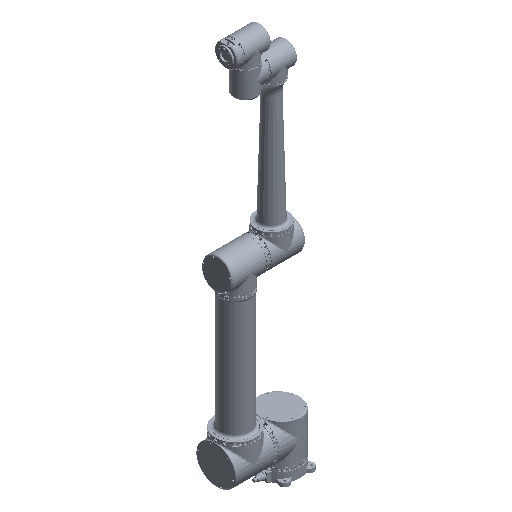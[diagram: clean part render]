
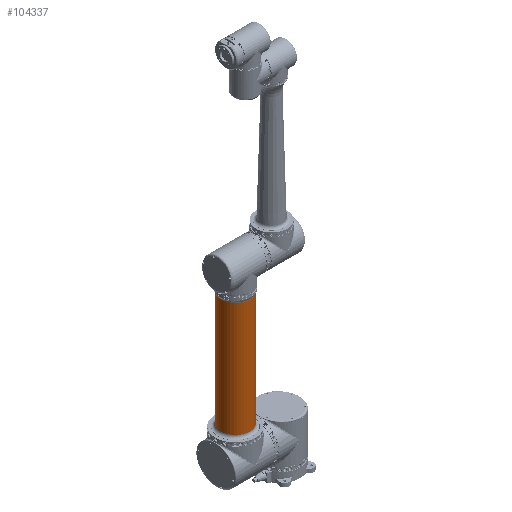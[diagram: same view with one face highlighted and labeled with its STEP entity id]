
A CAD part, isometric view. The second image highlights one B-rep face of the part: STEP entity #104337.
In plain terms, the highlighted cylindrical face has radius 54 mm (diameter 108 mm), a full revolution.
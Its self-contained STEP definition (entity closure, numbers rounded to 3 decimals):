
#6107 = EDGE_CURVE ( 'NONE', #418854, #418854, #614386, .T. ) ;
#8489 = DIRECTION ( 'NONE',  ( 0., 1., 0. ) ) ;
#35684 = FACE_OUTER_BOUND ( 'NONE', #658505, .T. ) ;
#58319 = EDGE_CURVE ( 'NONE', #384093, #384093, #370852, .T. ) ;
#72401 = DIRECTION ( 'NONE',  ( 0., 0., 1. ) ) ;
#104337 = ADVANCED_FACE ( 'NONE', ( #35684, #381765 ), #180136, .T. ) ;
#129793 = DIRECTION ( 'NONE',  ( 0., 1., 0. ) ) ;
#147072 = CARTESIAN_POINT ( 'NONE',  ( 0., -447., 0. ) ) ;
#159410 = EDGE_LOOP ( 'NONE', ( #217706 ) ) ;
#163664 = ORIENTED_EDGE ( 'NONE', *, *, #58319, .T. ) ;
#169203 = CARTESIAN_POINT ( 'NONE',  ( 0., -447., -54. ) ) ;
#180136 = CYLINDRICAL_SURFACE ( 'NONE', #285226, 54. ) ;
#188563 = AXIS2_PLACEMENT_3D ( 'NONE', #147072, #8489, #471894 ) ;
#217706 = ORIENTED_EDGE ( 'NONE', *, *, #6107, .T. ) ;
#271458 = AXIS2_PLACEMENT_3D ( 'NONE', #582542, #532233, #72401 ) ;
#285226 = AXIS2_PLACEMENT_3D ( 'NONE', #385122, #129793, #331406 ) ;
#331406 = DIRECTION ( 'NONE',  ( 0., 0., 1. ) ) ;
#370852 = CIRCLE ( 'NONE', #188563, 54. ) ;
#381765 = FACE_OUTER_BOUND ( 'NONE', #159410, .T. ) ;
#384093 = VERTEX_POINT ( 'NONE', #169203 ) ;
#385122 = CARTESIAN_POINT ( 'NONE',  ( 0., 0., 0. ) ) ;
#418854 = VERTEX_POINT ( 'NONE', #522640 ) ;
#471894 = DIRECTION ( 'NONE',  ( 0., 0., -1. ) ) ;
#522640 = CARTESIAN_POINT ( 'NONE',  ( 0., -21.987, 54. ) ) ;
#532233 = DIRECTION ( 'NONE',  ( 0., -1., 0. ) ) ;
#582542 = CARTESIAN_POINT ( 'NONE',  ( 0., -21.987, 0. ) ) ;
#614386 = CIRCLE ( 'NONE', #271458, 54. ) ;
#658505 = EDGE_LOOP ( 'NONE', ( #163664 ) ) ;
